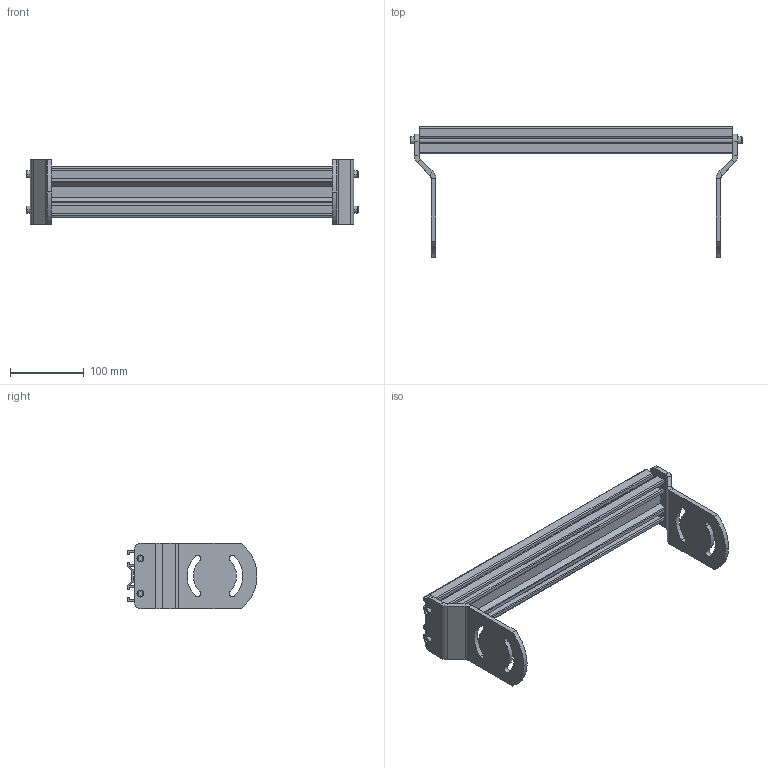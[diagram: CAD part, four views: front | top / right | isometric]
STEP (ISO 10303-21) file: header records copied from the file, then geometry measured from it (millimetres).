
FILE_DESCRIPTION((''),'2;1');
FILE_NAME('39MCM14-2_ASM','2023-03-01T',('jenni.wallner'),(''),'PRO/ENGINEER BY PARAMETRIC TECHNOLOGY CORPORATION, 2012420','PRO/ENGINEER BY PARAMETRIC TECHNOLOGY CORPORATION, 2012420','');
FILE_SCHEMA(('CONFIG_CONTROL_DESIGN'));
Length unit declared in the file: inch
Products named in the file (5): 710210_01679; 300825M; 708180P; 39MCM14-2_ASM_ASM; 39MCM14-2_ASM
Assembly tree (8 placements, depth 3):
  39MCM14-2_ASM
    39MCM14-2_ASM_ASM
      710210_01679
      300825M  x2
      708180P  x4
Bounding box: 451.17 x 176.65 x 88.93 mm (x, y, z)
Volume: 481182.5 mm3; surface area: 321135.2 mm2
Topology: 7 solids, 7 shells, 256 faces, 702 edges, 468 vertices
Faces by surface type: plane 144, cylinder 92, cone 20
Entity records: 5060 total; most frequent: CARTESIAN_POINT 922, DIRECTION 847, ORIENTED_EDGE 836, EDGE_CURVE 418, VECTOR 301, LINE 301, VERTEX_POINT 276, AXIS2_PLACEMENT_3D 273
